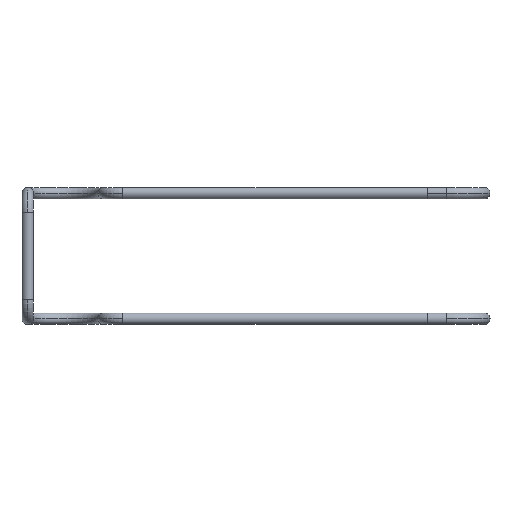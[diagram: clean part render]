
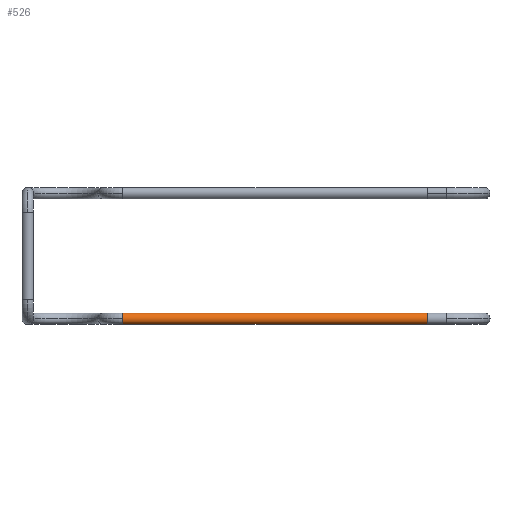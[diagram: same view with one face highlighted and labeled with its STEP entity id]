
A CAD part, front view. The second image highlights one B-rep face of the part: STEP entity #526.
In plain terms, the highlighted cylindrical face has radius 3 mm (diameter 6 mm), a partial arc.
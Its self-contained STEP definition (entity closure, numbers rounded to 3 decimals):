
#2 = DIRECTION ( 'NONE',  ( 1., 0., 0. ) ) ;
#91 = ORIENTED_EDGE ( 'NONE', *, *, #627, .F. ) ;
#112 = CARTESIAN_POINT ( 'NONE',  ( 220., 0., -69. ) ) ;
#127 = AXIS2_PLACEMENT_3D ( 'NONE', #445, #1140, #652 ) ;
#156 = CARTESIAN_POINT ( 'NONE',  ( 50., 0., -69. ) ) ;
#170 = VERTEX_POINT ( 'NONE', #680 ) ;
#204 = DIRECTION ( 'NONE',  ( 1., 0., 0. ) ) ;
#207 = CARTESIAN_POINT ( 'NONE',  ( 50., 0., -66. ) ) ;
#217 = VECTOR ( 'NONE', #204, 1000. ) ;
#232 = EDGE_CURVE ( 'NONE', #740, #387, #435, .T. ) ;
#261 = DIRECTION ( 'NONE',  ( 1., 0., 0. ) ) ;
#292 = ORIENTED_EDGE ( 'NONE', *, *, #319, .T. ) ;
#310 = AXIS2_PLACEMENT_3D ( 'NONE', #1204, #1134, #546 ) ;
#311 = CARTESIAN_POINT ( 'NONE',  ( 220., 0., -63. ) ) ;
#319 = EDGE_CURVE ( 'NONE', #1057, #709, #923, .T. ) ;
#341 = EDGE_CURVE ( 'NONE', #740, #1057, #1160, .T. ) ;
#354 = DIRECTION ( 'NONE',  ( 0., 0., 1. ) ) ;
#361 = CARTESIAN_POINT ( 'NONE',  ( 220., 0., -66. ) ) ;
#385 = ORIENTED_EDGE ( 'NONE', *, *, #711, .F. ) ;
#387 = VERTEX_POINT ( 'NONE', #311 ) ;
#406 = DIRECTION ( 'NONE',  ( 0., 0., 1. ) ) ;
#435 = LINE ( 'NONE', #605, #1084 ) ;
#445 = CARTESIAN_POINT ( 'NONE',  ( 220., 0., -66. ) ) ;
#484 = CARTESIAN_POINT ( 'NONE',  ( 50., 0., -66. ) ) ;
#499 = CIRCLE ( 'NONE', #591, 3. ) ;
#520 = CARTESIAN_POINT ( 'NONE',  ( 50., -3., -66. ) ) ;
#526 = ADVANCED_FACE ( 'NONE', ( #954 ), #1142, .T. ) ;
#546 = DIRECTION ( 'NONE',  ( 0., 0., -1. ) ) ;
#591 = AXIS2_PLACEMENT_3D ( 'NONE', #361, #261, #354 ) ;
#605 = CARTESIAN_POINT ( 'NONE',  ( 50., 0., -63. ) ) ;
#617 = EDGE_LOOP ( 'NONE', ( #1217, #1039, #292, #1102, #385, #91 ) ) ;
#627 = EDGE_CURVE ( 'NONE', #387, #170, #1071, .T. ) ;
#652 = DIRECTION ( 'NONE',  ( 0., 0., 1. ) ) ;
#680 = CARTESIAN_POINT ( 'NONE',  ( 220., -3., -66. ) ) ;
#695 = DIRECTION ( 'NONE',  ( 1., 0., 0. ) ) ;
#709 = VERTEX_POINT ( 'NONE', #156 ) ;
#711 = EDGE_CURVE ( 'NONE', #170, #1010, #499, .T. ) ;
#740 = VERTEX_POINT ( 'NONE', #1066 ) ;
#843 = AXIS2_PLACEMENT_3D ( 'NONE', #484, #2, #406 ) ;
#848 = LINE ( 'NONE', #892, #217 ) ;
#892 = CARTESIAN_POINT ( 'NONE',  ( 50., 0., -69. ) ) ;
#917 = EDGE_CURVE ( 'NONE', #709, #1010, #848, .T. ) ;
#923 = CIRCLE ( 'NONE', #843, 3. ) ;
#954 = FACE_OUTER_BOUND ( 'NONE', #617, .T. ) ;
#1000 = DIRECTION ( 'NONE',  ( 1., 0., 0. ) ) ;
#1010 = VERTEX_POINT ( 'NONE', #112 ) ;
#1039 = ORIENTED_EDGE ( 'NONE', *, *, #341, .T. ) ;
#1057 = VERTEX_POINT ( 'NONE', #520 ) ;
#1066 = CARTESIAN_POINT ( 'NONE',  ( 50., 0., -63. ) ) ;
#1071 = CIRCLE ( 'NONE', #127, 3. ) ;
#1084 = VECTOR ( 'NONE', #695, 1000. ) ;
#1102 = ORIENTED_EDGE ( 'NONE', *, *, #917, .T. ) ;
#1134 = DIRECTION ( 'NONE',  ( 1., 0., 0. ) ) ;
#1140 = DIRECTION ( 'NONE',  ( 1., 0., 0. ) ) ;
#1142 = CYLINDRICAL_SURFACE ( 'NONE', #310, 3. ) ;
#1160 = CIRCLE ( 'NONE', #1184, 3. ) ;
#1184 = AXIS2_PLACEMENT_3D ( 'NONE', #207, #1000, #1187 ) ;
#1187 = DIRECTION ( 'NONE',  ( 0., 0., 1. ) ) ;
#1204 = CARTESIAN_POINT ( 'NONE',  ( 50., 0., -66. ) ) ;
#1217 = ORIENTED_EDGE ( 'NONE', *, *, #232, .F. ) ;
